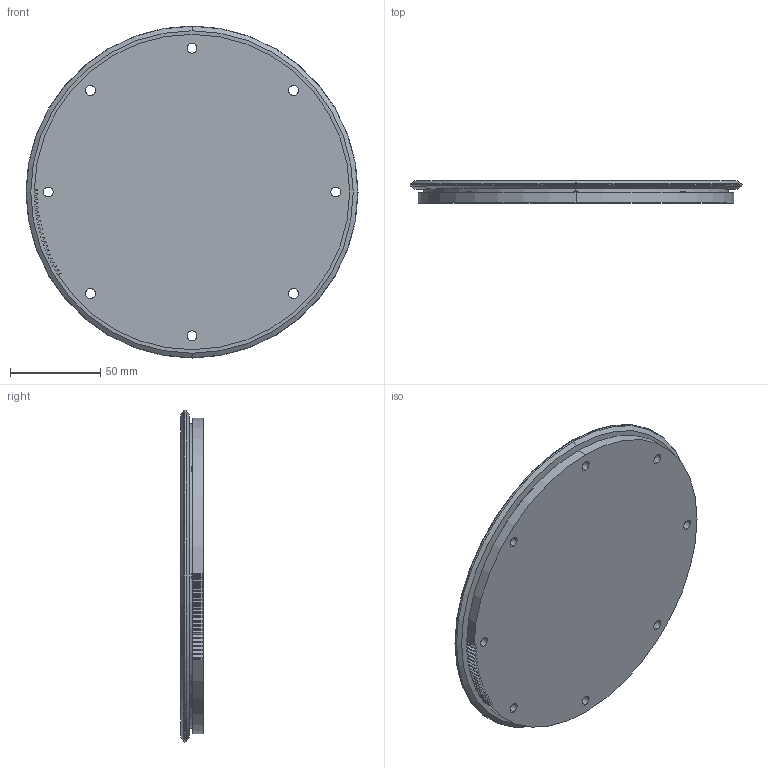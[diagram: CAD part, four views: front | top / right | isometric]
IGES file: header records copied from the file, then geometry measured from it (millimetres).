
Start section: 3D InterOp IGES (v. 2020 1.0.1), Spatial Corp. Copyright (c) 1999-2017.
Global section: file name: rd25_159_p_l.igs; native system: Spatial Corp.; preprocessor: 3D InterOp ACIS/IGES; author: TraceParts; organization: TraceParts S.A.; date: 20220622.101201; units: millimetre
Bounding box: 183.61 x 12.25 x 183.61 mm (x, y, z)
Surface area: 65917.5 mm2 (no closed solid volume)
Topology: 0 solids, 0 shells, 166 faces, 898 edges, 898 vertices
Faces by surface type: extrusion 115, revolution 51
